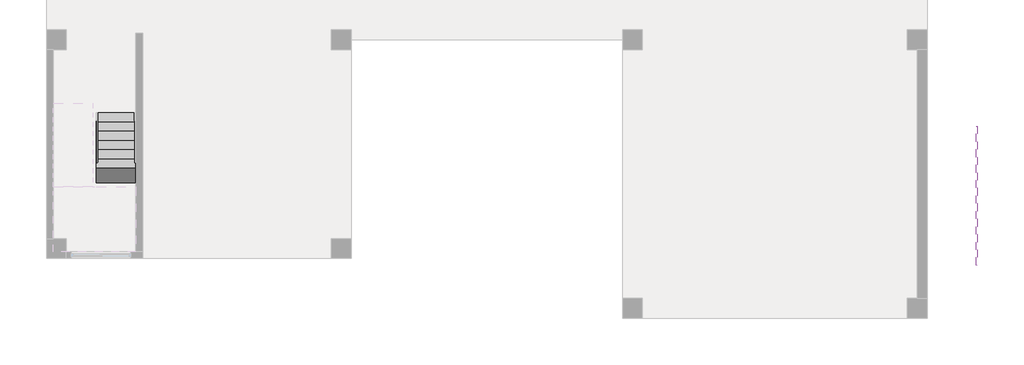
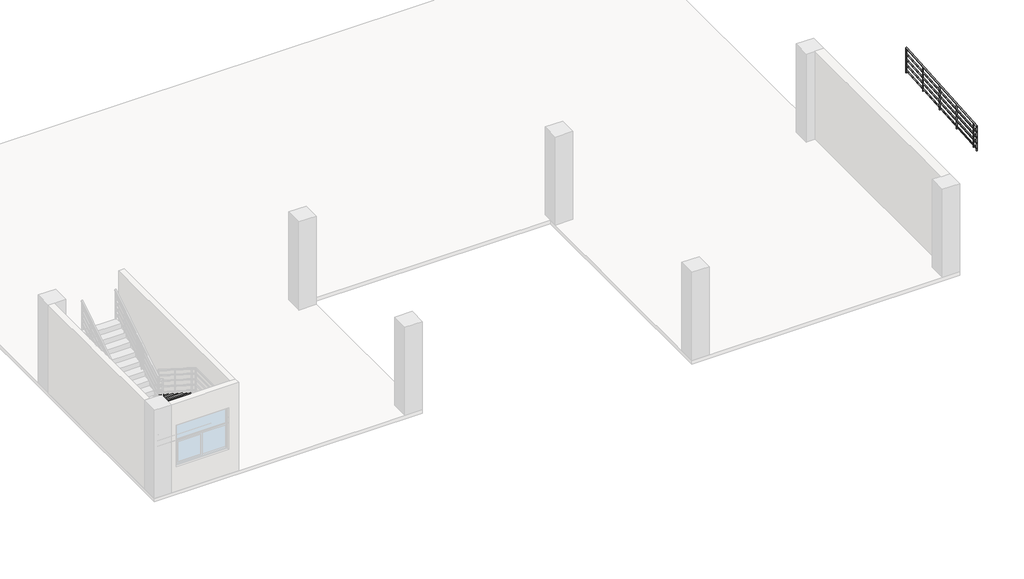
# One storey, part 4 of 4: 1 railing, 1 stair flight.
"""IFC4 building model written with IfcOpenShell, lengths in millimetres."""

from ifc_helpers import new_model, si_unit, frame, origin, place, context, project, spatial, ellipse_curve, faceted_brep, element, save
from ifc_brep_helpers import plane_surface, cylinder_surface, advanced_brep

model = new_model("IFC4")

# Units and contexts
model_context = context("Model", 3, world=origin())
ifc_project = project(units=[si_unit("LENGTHUNIT", "METRE", prefix="MILLI")], contexts=[model_context])

# Site, building, storey
site = spatial("IfcSite", under=ifc_project)
building = spatial("IfcBuilding", under=site)
storey = spatial("IfcBuildingStorey", under=building, Name="标高 1", Elevation=0.0)

# Railing
placement = place(None, origin())
element("IfcRailing", 1, ObjectType="900mm 圆管", at=placement, inside=storey, context=model_context, shape_type="AdvancedBrep", body=[
    advanced_brep(
    [(15398.2324742, -4742.519554, 4079.9490445), (15438.2324742, -4742.519554, 4079.9490445), (15398.2324742, -8942.519554, 3779.9490445), (15438.2324742, -8942.519554, 3779.9490445)],
    [
        (0, 1, ellipse_curve(frame((15418.2324742, -4742.519554, 4079.9490445), z_axis=(0.0, 1.0, 0.0), x_axis=(0.0, 0.0, 1.0)), 20.0509555, 20.0)),
        (1, 0, ellipse_curve(frame((15418.2324742, -4742.519554, 4079.9490445), z_axis=(0.0, 1.0, 0.0), x_axis=(0.0, 0.0, 1.0)), 20.0509555, 20.0)),
        (2, 3, ellipse_curve(frame((15418.2324742, -8942.519554, 3779.9490445), z_axis=(0.0, -1.0, 0.0), x_axis=(0.0, 0.0, 1.0)), 20.0509555, 20.0)),
        (3, 2, ellipse_curve(frame((15418.2324742, -8942.519554, 3779.9490445), z_axis=(0.0, -1.0, 0.0), x_axis=(0.0, 0.0, 1.0)), 20.0509555, 20.0)),
        (0, 2),
        (3, 1),
    ],
    [
        plane_surface(frame((15418.2324742, -4742.519554, 4100.0), z_axis=(0.0, 1.0, 0.0), x_axis=(0.0, 0.0, -1.0))),
        plane_surface(frame((15418.2324742, -8942.519554, 3800.0), z_axis=(0.0, -1.0, 0.0), x_axis=(0.0, 0.0, -1.0))),
        cylinder_surface(frame((15418.2324742, -4741.094613, 4080.050826), z_axis=(0.0, 0.997458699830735, 0.07124704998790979), x_axis=(1.0, 0.0, 0.0)), 20.0),
    ],
    [
        (0, [[1, 2]]),
        (1, [[3, 4]]),
        (2, [[-1, 5, -4, 6]]),
        (2, [[-2, -6, -3, -5]]),
    ],
),
    advanced_brep(
    [(15433.2324742, -4742.519554, 3884.9617834), (15403.2324742, -4742.519554, 3884.9617834), (15433.2324742, -8942.519554, 3584.9617834), (15403.2324742, -8942.519554, 3584.9617834)],
    [
        (0, 1, ellipse_curve(frame((15418.2324742, -4742.519554, 3884.9617834), z_axis=(0.0, 1.0, 0.0), x_axis=(0.0, 0.0, 1.0)), 15.0382166, 15.0)),
        (1, 0, ellipse_curve(frame((15418.2324742, -4742.519554, 3884.9617834), z_axis=(0.0, 1.0, 0.0), x_axis=(0.0, 0.0, 1.0)), 15.0382166, 15.0)),
        (2, 3, ellipse_curve(frame((15418.2324742, -8942.519554, 3584.9617834), z_axis=(0.0, -1.0, 0.0), x_axis=(0.0, 0.0, 1.0)), 15.0382166, 15.0)),
        (3, 2, ellipse_curve(frame((15418.2324742, -8942.519554, 3584.9617834), z_axis=(0.0, -1.0, 0.0), x_axis=(0.0, 0.0, 1.0)), 15.0382166, 15.0)),
        (0, 2),
        (3, 1),
    ],
    [
        plane_surface(frame((15418.2324742, -4742.519554, 3900.0), z_axis=(0.0, 1.0, 0.0), x_axis=(0.0, 0.0, -1.0))),
        plane_surface(frame((15418.2324742, -8942.519554, 3600.0), z_axis=(0.0, -1.0, 0.0), x_axis=(0.0, 0.0, -1.0))),
        cylinder_surface(frame((15418.2324742, -4741.4508482, 3885.0381195), z_axis=(0.0, 0.997458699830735, 0.07124704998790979), x_axis=(-1.0, 0.0, 0.0)), 15.0),
    ],
    [
        (0, [[1, 2]]),
        (1, [[3, 4]]),
        (2, [[-1, 5, -4, 6]]),
        (2, [[-2, -6, -3, -5]]),
    ],
),
    advanced_brep(
    [(15433.2324742, -4742.519554, 3684.9617834), (15403.2324742, -4742.519554, 3684.9617834), (15433.2324742, -8942.519554, 3384.9617834), (15403.2324742, -8942.519554, 3384.9617834)],
    [
        (0, 1, ellipse_curve(frame((15418.2324742, -4742.519554, 3684.9617834), z_axis=(0.0, 1.0, 0.0), x_axis=(0.0, 0.0, 1.0)), 15.0382166, 15.0)),
        (1, 0, ellipse_curve(frame((15418.2324742, -4742.519554, 3684.9617834), z_axis=(0.0, 1.0, 0.0), x_axis=(0.0, 0.0, 1.0)), 15.0382166, 15.0)),
        (2, 3, ellipse_curve(frame((15418.2324742, -8942.519554, 3384.9617834), z_axis=(0.0, -1.0, 0.0), x_axis=(0.0, 0.0, 1.0)), 15.0382166, 15.0)),
        (3, 2, ellipse_curve(frame((15418.2324742, -8942.519554, 3384.9617834), z_axis=(0.0, -1.0, 0.0), x_axis=(0.0, 0.0, 1.0)), 15.0382166, 15.0)),
        (0, 2),
        (3, 1),
    ],
    [
        plane_surface(frame((15418.2324742, -4742.519554, 3700.0), z_axis=(0.0, 1.0, 0.0), x_axis=(0.0, 0.0, -1.0))),
        plane_surface(frame((15418.2324742, -8942.519554, 3400.0), z_axis=(0.0, -1.0, 0.0), x_axis=(0.0, 0.0, -1.0))),
        cylinder_surface(frame((15418.2324742, -4741.4508482, 3685.0381195), z_axis=(0.0, 0.997458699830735, 0.07124704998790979), x_axis=(-1.0, 0.0, 0.0)), 15.0),
    ],
    [
        (0, [[1, 2]]),
        (1, [[3, 4]]),
        (2, [[-1, 5, -4, 6]]),
        (2, [[-2, -6, -3, -5]]),
    ],
),
    advanced_brep(
    [(15433.2324742, -4742.519554, 3484.9617834), (15403.2324742, -4742.519554, 3484.9617834), (15433.2324742, -8942.519554, 3184.9617834), (15403.2324742, -8942.519554, 3184.9617834)],
    [
        (0, 1, ellipse_curve(frame((15418.2324742, -4742.519554, 3484.9617834), z_axis=(0.0, 1.0, 0.0), x_axis=(0.0, 0.0, 1.0)), 15.0382166, 15.0)),
        (1, 0, ellipse_curve(frame((15418.2324742, -4742.519554, 3484.9617834), z_axis=(0.0, 1.0, 0.0), x_axis=(0.0, 0.0, 1.0)), 15.0382166, 15.0)),
        (2, 3, ellipse_curve(frame((15418.2324742, -8942.519554, 3184.9617834), z_axis=(0.0, -1.0, 0.0), x_axis=(0.0, 0.0, 1.0)), 15.0382166, 15.0)),
        (3, 2, ellipse_curve(frame((15418.2324742, -8942.519554, 3184.9617834), z_axis=(0.0, -1.0, 0.0), x_axis=(0.0, 0.0, 1.0)), 15.0382166, 15.0)),
        (0, 2),
        (3, 1),
    ],
    [
        plane_surface(frame((15418.2324742, -4742.519554, 3500.0), z_axis=(0.0, 1.0, 0.0), x_axis=(0.0, 0.0, -1.0))),
        plane_surface(frame((15418.2324742, -8942.519554, 3200.0), z_axis=(0.0, -1.0, 0.0), x_axis=(0.0, 0.0, -1.0))),
        cylinder_surface(frame((15418.2324742, -4741.4508482, 3485.0381195), z_axis=(0.0, 0.997458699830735, 0.07124704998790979), x_axis=(-1.0, 0.0, 0.0)), 15.0),
    ],
    [
        (0, [[1, 2]]),
        (1, [[3, 4]]),
        (2, [[-1, 5, -4, 6]]),
        (2, [[-2, -6, -3, -5]]),
    ],
),
    advanced_brep(
    [(15433.2324742, -4742.519554, 3284.9617834), (15403.2324742, -4742.519554, 3284.9617834), (15433.2324742, -8942.519554, 2984.9617834), (15403.2324742, -8942.519554, 2984.9617834)],
    [
        (0, 1, ellipse_curve(frame((15418.2324742, -4742.519554, 3284.9617834), z_axis=(0.0, 1.0, 0.0), x_axis=(0.0, 0.0, 1.0)), 15.0382166, 15.0)),
        (1, 0, ellipse_curve(frame((15418.2324742, -4742.519554, 3284.9617834), z_axis=(0.0, 1.0, 0.0), x_axis=(0.0, 0.0, 1.0)), 15.0382166, 15.0)),
        (2, 3, ellipse_curve(frame((15418.2324742, -8942.519554, 2984.9617834), z_axis=(0.0, -1.0, 0.0), x_axis=(0.0, 0.0, 1.0)), 15.0382166, 15.0)),
        (3, 2, ellipse_curve(frame((15418.2324742, -8942.519554, 2984.9617834), z_axis=(0.0, -1.0, 0.0), x_axis=(0.0, 0.0, 1.0)), 15.0382166, 15.0)),
        (0, 2),
        (3, 1),
    ],
    [
        plane_surface(frame((15418.2324742, -4742.519554, 3300.0), z_axis=(0.0, 1.0, 0.0), x_axis=(0.0, 0.0, -1.0))),
        plane_surface(frame((15418.2324742, -8942.519554, 3000.0), z_axis=(0.0, -1.0, 0.0), x_axis=(0.0, 0.0, -1.0))),
        cylinder_surface(frame((15418.2324742, -4741.4508482, 3285.0381195), z_axis=(0.0, 0.997458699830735, 0.07124704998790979), x_axis=(-1.0, 0.0, 0.0)), 15.0),
    ],
    [
        (0, [[1, 2]]),
        (1, [[3, 4]]),
        (2, [[-1, 5, -4, 6]]),
        (2, [[-2, -6, -3, -5]]),
    ],
),
    advanced_brep(
    [(15405.7324742, -8742.519554, 3774.1838033), (15405.7324742, -8742.519554, 2914.2857143), (15430.7324742, -8742.519554, 2914.2857143), (15430.7324742, -8742.519554, 3774.1838033)],
    [
        (0, 1),
        (1, 2, ellipse_curve(frame((15418.2324742, -8742.519554, 2914.2857143), z_axis=(0.0, -0.07124704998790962, 0.997458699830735), x_axis=(0.0, 0.997458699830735, 0.07124704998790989)), 12.5318472, 12.5)),
        (2, 3),
        (3, 0, ellipse_curve(frame((15418.2324742, -8742.519554, 3774.1838033), z_axis=(0.0, 0.07124704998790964, -0.997458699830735), x_axis=(0.0, 0.997458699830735, 0.07124704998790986)), 12.5318472, 12.5)),
        (0, 3, ellipse_curve(frame((15418.2324742, -8742.519554, 3774.1838033), z_axis=(0.0, 0.07124704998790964, -0.997458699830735), x_axis=(0.0, 0.997458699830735, 0.07124704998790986)), 12.5318472, 12.5)),
        (2, 1, ellipse_curve(frame((15418.2324742, -8742.519554, 2914.2857143), z_axis=(0.0, -0.07124704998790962, 0.997458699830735), x_axis=(0.0, 0.997458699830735, 0.07124704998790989)), 12.5318472, 12.5)),
    ],
    [
        cylinder_surface(frame((15418.2324742, -8742.519554, 2814.2857143), z_axis=(0.0, 0.0, 1.0), x_axis=(1.0, 0.0, 0.0)), 12.5),
        plane_surface(frame((15443.2324742, -8767.519554, 3772.398089), z_axis=(0.0, -0.07124704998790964, 0.997458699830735), x_axis=(-1.0, 0.0, 0.0))),
        plane_surface(frame((15443.2324742, -8717.519554, 2916.0714286), z_axis=(0.0, 0.07124704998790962, -0.997458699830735), x_axis=(-1.0, 0.0, 0.0))),
    ],
    [
        (0, [[1, 2, 3, 4]]),
        (0, [[-1, 5, -3, 6]]),
        (1, [[-4, -5]]),
        (2, [[-2, -6]]),
    ],
),
    advanced_brep(
    [(15405.7324742, -7742.519554, 3845.6123747), (15405.7324742, -7742.519554, 2985.7142857), (15430.7324742, -7742.519554, 2985.7142857), (15430.7324742, -7742.519554, 3845.6123747)],
    [
        (0, 1),
        (1, 2, ellipse_curve(frame((15418.2324742, -7742.519554, 2985.7142857), z_axis=(0.0, -0.07124704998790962, 0.997458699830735), x_axis=(0.0, 0.997458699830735, 0.07124704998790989)), 12.5318472, 12.5)),
        (2, 3),
        (3, 0, ellipse_curve(frame((15418.2324742, -7742.519554, 3845.6123747), z_axis=(0.0, 0.07124704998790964, -0.997458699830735), x_axis=(0.0, 0.997458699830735, 0.07124704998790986)), 12.5318472, 12.5)),
        (0, 3, ellipse_curve(frame((15418.2324742, -7742.519554, 3845.6123747), z_axis=(0.0, 0.07124704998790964, -0.997458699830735), x_axis=(0.0, 0.997458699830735, 0.07124704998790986)), 12.5318472, 12.5)),
        (2, 1, ellipse_curve(frame((15418.2324742, -7742.519554, 2985.7142857), z_axis=(0.0, -0.07124704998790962, 0.997458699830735), x_axis=(0.0, 0.997458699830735, 0.07124704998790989)), 12.5318472, 12.5)),
    ],
    [
        cylinder_surface(frame((15418.2324742, -7742.519554, 2885.7142857), z_axis=(0.0, 0.0, 1.0), x_axis=(1.0, 0.0, 0.0)), 12.5),
        plane_surface(frame((15443.2324742, -7767.519554, 3843.8266604), z_axis=(0.0, -0.07124704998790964, 0.997458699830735), x_axis=(-1.0, 0.0, 0.0))),
        plane_surface(frame((15443.2324742, -7717.519554, 2987.5), z_axis=(0.0, 0.07124704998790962, -0.997458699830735), x_axis=(-1.0, 0.0, 0.0))),
    ],
    [
        (0, [[1, 2, 3, 4]]),
        (0, [[-1, 5, -3, 6]]),
        (1, [[-4, -5]]),
        (2, [[-2, -6]]),
    ],
),
    advanced_brep(
    [(15405.7324742, -6742.519554, 3917.0409461), (15405.7324742, -6742.519554, 3057.1428571), (15430.7324742, -6742.519554, 3057.1428571), (15430.7324742, -6742.519554, 3917.0409461)],
    [
        (0, 1),
        (1, 2, ellipse_curve(frame((15418.2324742, -6742.519554, 3057.1428571), z_axis=(0.0, -0.07124704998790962, 0.997458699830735), x_axis=(0.0, 0.997458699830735, 0.07124704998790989)), 12.5318472, 12.5)),
        (2, 3),
        (3, 0, ellipse_curve(frame((15418.2324742, -6742.519554, 3917.0409461), z_axis=(0.0, 0.07124704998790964, -0.997458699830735), x_axis=(0.0, 0.997458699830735, 0.07124704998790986)), 12.5318472, 12.5)),
        (0, 3, ellipse_curve(frame((15418.2324742, -6742.519554, 3917.0409461), z_axis=(0.0, 0.07124704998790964, -0.997458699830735), x_axis=(0.0, 0.997458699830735, 0.07124704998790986)), 12.5318472, 12.5)),
        (2, 1, ellipse_curve(frame((15418.2324742, -6742.519554, 3057.1428571), z_axis=(0.0, -0.07124704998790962, 0.997458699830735), x_axis=(0.0, 0.997458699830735, 0.07124704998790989)), 12.5318472, 12.5)),
    ],
    [
        cylinder_surface(frame((15418.2324742, -6742.519554, 2957.1428571), z_axis=(0.0, 0.0, 1.0), x_axis=(1.0, 0.0, 0.0)), 12.5),
        plane_surface(frame((15443.2324742, -6767.519554, 3915.2552319), z_axis=(0.0, -0.07124704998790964, 0.997458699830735), x_axis=(-1.0, 0.0, 0.0))),
        plane_surface(frame((15443.2324742, -6717.519554, 3058.9285714), z_axis=(0.0, 0.07124704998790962, -0.997458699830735), x_axis=(-1.0, 0.0, 0.0))),
    ],
    [
        (0, [[1, 2, 3, 4]]),
        (0, [[-1, 5, -3, 6]]),
        (1, [[-4, -5]]),
        (2, [[-2, -6]]),
    ],
),
    advanced_brep(
    [(15405.7324742, -5742.519554, 3988.4695176), (15405.7324742, -5742.519554, 3128.5714286), (15430.7324742, -5742.519554, 3128.5714286), (15430.7324742, -5742.519554, 3988.4695176)],
    [
        (0, 1),
        (1, 2, ellipse_curve(frame((15418.2324742, -5742.519554, 3128.5714286), z_axis=(0.0, -0.07124704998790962, 0.997458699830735), x_axis=(0.0, 0.997458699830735, 0.07124704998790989)), 12.5318472, 12.5)),
        (2, 3),
        (3, 0, ellipse_curve(frame((15418.2324742, -5742.519554, 3988.4695176), z_axis=(0.0, 0.07124704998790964, -0.997458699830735), x_axis=(0.0, 0.997458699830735, 0.07124704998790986)), 12.5318472, 12.5)),
        (0, 3, ellipse_curve(frame((15418.2324742, -5742.519554, 3988.4695176), z_axis=(0.0, 0.07124704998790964, -0.997458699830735), x_axis=(0.0, 0.997458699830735, 0.07124704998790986)), 12.5318472, 12.5)),
        (2, 1, ellipse_curve(frame((15418.2324742, -5742.519554, 3128.5714286), z_axis=(0.0, -0.07124704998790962, 0.997458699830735), x_axis=(0.0, 0.997458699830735, 0.07124704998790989)), 12.5318472, 12.5)),
    ],
    [
        cylinder_surface(frame((15418.2324742, -5742.519554, 3028.5714286), z_axis=(0.0, 0.0, 1.0), x_axis=(1.0, 0.0, 0.0)), 12.5),
        plane_surface(frame((15443.2324742, -5767.519554, 3986.6838033), z_axis=(0.0, -0.07124704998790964, 0.997458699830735), x_axis=(-1.0, 0.0, 0.0))),
        plane_surface(frame((15443.2324742, -5717.519554, 3130.3571429), z_axis=(0.0, 0.07124704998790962, -0.997458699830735), x_axis=(-1.0, 0.0, 0.0))),
    ],
    [
        (0, [[1, 2, 3, 4]]),
        (0, [[-1, 5, -3, 6]]),
        (1, [[-4, -5]]),
        (2, [[-2, -6]]),
    ],
),
    advanced_brep(
    [(15405.7324742, -8930.019554, 3760.7909461), (15405.7324742, -8930.019554, 2900.8928571), (15430.7324742, -8930.019554, 2900.8928571), (15430.7324742, -8930.019554, 3760.7909461)],
    [
        (0, 1),
        (1, 2, ellipse_curve(frame((15418.2324742, -8930.019554, 2900.8928571), z_axis=(0.0, -0.07124704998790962, 0.997458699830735), x_axis=(0.0, 0.997458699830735, 0.07124704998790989)), 12.5318472, 12.5)),
        (2, 3),
        (3, 0, ellipse_curve(frame((15418.2324742, -8930.019554, 3760.7909461), z_axis=(0.0, 0.07124704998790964, -0.997458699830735), x_axis=(0.0, 0.997458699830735, 0.07124704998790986)), 12.5318472, 12.5)),
        (0, 3, ellipse_curve(frame((15418.2324742, -8930.019554, 3760.7909461), z_axis=(0.0, 0.07124704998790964, -0.997458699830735), x_axis=(0.0, 0.997458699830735, 0.07124704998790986)), 12.5318472, 12.5)),
        (2, 1, ellipse_curve(frame((15418.2324742, -8930.019554, 2900.8928571), z_axis=(0.0, -0.07124704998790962, 0.997458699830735), x_axis=(0.0, 0.997458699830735, 0.07124704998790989)), 12.5318472, 12.5)),
    ],
    [
        cylinder_surface(frame((15418.2324742, -8930.019554, 2800.8928571), z_axis=(0.0, 0.0, 1.0), x_axis=(1.0, 0.0, 0.0)), 12.5),
        plane_surface(frame((15443.2324742, -8955.019554, 3759.0052319), z_axis=(0.0, -0.07124704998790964, 0.997458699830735), x_axis=(-1.0, 0.0, 0.0))),
        plane_surface(frame((15443.2324742, -8905.019554, 2902.6785714), z_axis=(0.0, 0.07124704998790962, -0.997458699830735), x_axis=(-1.0, 0.0, 0.0))),
    ],
    [
        (0, [[1, 2, 3, 4]]),
        (0, [[-1, 5, -3, 6]]),
        (1, [[-4, -5]]),
        (2, [[-2, -6]]),
    ],
),
    advanced_brep(
    [(15405.7324742, -4755.019554, 4059.0052319), (15405.7324742, -4755.019554, 3199.1071429), (15430.7324742, -4755.019554, 3199.1071429), (15430.7324742, -4755.019554, 4059.0052319)],
    [
        (0, 1),
        (1, 2, ellipse_curve(frame((15418.2324742, -4755.019554, 3199.1071429), z_axis=(0.0, -0.07124704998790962, 0.997458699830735), x_axis=(0.0, 0.997458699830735, 0.07124704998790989)), 12.5318472, 12.5)),
        (2, 3),
        (3, 0, ellipse_curve(frame((15418.2324742, -4755.019554, 4059.0052319), z_axis=(0.0, 0.07124704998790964, -0.997458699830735), x_axis=(0.0, 0.997458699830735, 0.07124704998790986)), 12.5318472, 12.5)),
        (0, 3, ellipse_curve(frame((15418.2324742, -4755.019554, 4059.0052319), z_axis=(0.0, 0.07124704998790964, -0.997458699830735), x_axis=(0.0, 0.997458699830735, 0.07124704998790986)), 12.5318472, 12.5)),
        (2, 1, ellipse_curve(frame((15418.2324742, -4755.019554, 3199.1071429), z_axis=(0.0, -0.07124704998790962, 0.997458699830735), x_axis=(0.0, 0.997458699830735, 0.07124704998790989)), 12.5318472, 12.5)),
    ],
    [
        cylinder_surface(frame((15418.2324742, -4755.019554, 3099.1071429), z_axis=(0.0, 0.0, 1.0), x_axis=(1.0, 0.0, 0.0)), 12.5),
        plane_surface(frame((15443.2324742, -4780.019554, 4057.2195176), z_axis=(0.0, -0.07124704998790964, 0.997458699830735), x_axis=(-1.0, 0.0, 0.0))),
        plane_surface(frame((15443.2324742, -4730.019554, 3200.8928571), z_axis=(0.0, 0.07124704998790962, -0.997458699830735), x_axis=(-1.0, 0.0, 0.0))),
    ],
    [
        (0, [[1, 2, 3, 4]]),
        (0, [[-1, 5, -3, 6]]),
        (1, [[-4, -5]]),
        (2, [[-2, -6]]),
    ],
),
])

# Stair flight
element("IfcStairFlight", 2, ObjectType="150", at=placement, inside=storey, context=model_context, shape_type="Brep", body=[
    faceted_brep([(-9981.7675258, -4616.6725016, 177.7777778), (-9981.7675258, -4336.6725016, 177.7777778), (-11181.7675258, -4336.6725016, 177.7777778), (-11181.7675258, -4616.6725016, 177.7777778), (-9981.7675258, -4616.6725016, 35.6335248), (-9981.7675258, -4560.5497001, 0.0), (-9981.7675258, -4336.6725016, 0.0), (-11181.7675258, -4336.6725016, 0.0), (-11181.7675258, -4560.5497001, 0.0), (-11181.7675258, -4616.6725016, 35.6335248), (-9981.7675258, -4896.6725016, 355.5555556), (-9981.7675258, -4616.6725016, 355.5555556), (-11181.7675258, -4616.6725016, 355.5555556), (-11181.7675258, -4896.6725016, 355.5555556), (-9981.7675258, -4896.6725016, 213.4113026), (-11181.7675258, -4896.6725016, 213.4113026), (-9981.7675258, -5176.6725016, 533.3333333), (-9981.7675258, -4896.6725016, 533.3333333), (-11181.7675258, -4896.6725016, 533.3333333), (-11181.7675258, -5176.6725016, 533.3333333), (-9981.7675258, -5176.6725016, 391.1890803), (-11181.7675258, -5176.6725016, 391.1890803), (-9981.7675258, -5456.6725016, 711.1111111), (-9981.7675258, -5176.6725016, 711.1111111), (-11181.7675258, -5176.6725016, 711.1111111), (-11181.7675258, -5456.6725016, 711.1111111), (-9981.7675258, -5456.6725016, 568.9668581), (-11181.7675258, -5456.6725016, 568.9668581), (-9981.7675258, -5736.6725016, 888.8888889), (-9981.7675258, -5456.6725016, 888.8888889), (-11181.7675258, -5456.6725016, 888.8888889), (-11181.7675258, -5736.6725016, 888.8888889), (-9981.7675258, -5736.6725016, 746.7446359), (-11181.7675258, -5736.6725016, 746.7446359), (-9981.7675258, -6016.6725016, 1066.6666667), (-9981.7675258, -5736.6725016, 1066.6666667), (-11181.7675258, -5736.6725016, 1066.6666667), (-11181.7675258, -6016.6725016, 1066.6666667), (-9981.7675258, -6016.6725016, 924.5224137), (-11181.7675258, -6016.6725016, 924.5224137), (-9981.7675258, -6296.6725016, 1244.4444444), (-9981.7675258, -6016.6725016, 1244.4444444), (-11181.7675258, -6016.6725016, 1244.4444444), (-11181.7675258, -6296.6725016, 1244.4444444), (-9981.7675258, -6296.6725016, 1102.3001914), (-11181.7675258, -6296.6725016, 1102.3001914), (-9981.7675258, -6576.6725016, 1422.2222222), (-9981.7675258, -6296.6725016, 1422.2222222), (-11181.7675258, -6296.6725016, 1422.2222222), (-11181.7675258, -6576.6725016, 1422.2222222), (-9981.7675258, -6576.6725016, 1280.0779692), (-11181.7675258, -6576.6725016, 1280.0779692), (-11181.7675258, -6576.6725016, 1300.0)], [[[0, 1, 2, 3]], [[1, 0, 4, 5, 6]], [[2, 1, 6, 7]], [[3, 2, 7, 8, 9]], [[10, 11, 12, 13]], [[11, 10, 14, 4, 0]], [[0, 3, 12, 11]], [[13, 12, 3, 9, 15]], [[16, 17, 18, 19]], [[17, 16, 20, 14, 10]], [[10, 13, 18, 17]], [[19, 18, 13, 15, 21]], [[22, 23, 24, 25]], [[23, 22, 26, 20, 16]], [[16, 19, 24, 23]], [[25, 24, 19, 21, 27]], [[28, 29, 30, 31]], [[29, 28, 32, 26, 22]], [[22, 25, 30, 29]], [[31, 30, 25, 27, 33]], [[34, 35, 36, 37]], [[35, 34, 38, 32, 28]], [[28, 31, 36, 35]], [[37, 36, 31, 33, 39]], [[40, 41, 42, 43]], [[41, 40, 44, 38, 34]], [[34, 37, 42, 41]], [[43, 42, 37, 39, 45]], [[46, 47, 48, 49]], [[47, 46, 50, 44, 40]], [[40, 43, 48, 47]], [[49, 48, 43, 45, 51, 52]], [[46, 49, 52, 51, 50]], [[7, 6, 5, 8]], [[8, 5, 4, 14, 20, 26, 32, 38, 44, 50, 51, 45, 39, 33, 27, 21, 15, 9]]]),
])

save(model, "model.ifc")
